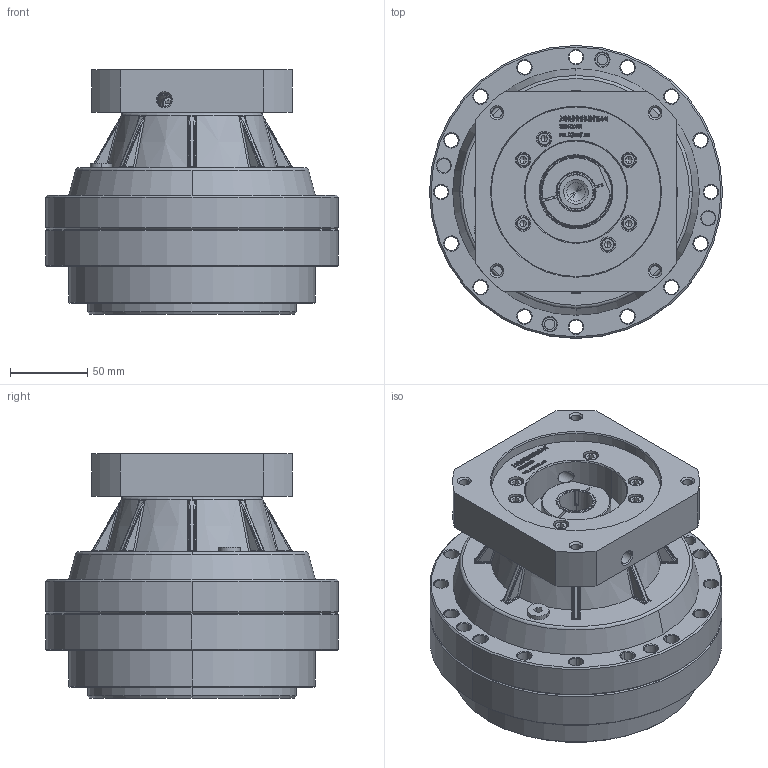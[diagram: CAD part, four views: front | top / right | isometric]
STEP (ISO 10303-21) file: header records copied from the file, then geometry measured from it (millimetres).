
FILE_DESCRIPTION (( 'STEP AP214' ), '1' );
FILE_NAME ('190BX-REA-苤厒掀-22-110145.STEP', '2022-11-12T13:38:50', ( '' ), ( '' ), 'SwSTEP 2.0', 'SolidWorks 2020', '' );
FILE_SCHEMA (( 'AUTOMOTIVE_DESIGN' ));
Length unit declared in the file: millimetre
Products named in the file (14): 錨璃517^190BX-REA-苤厒掀-22-110145; 弹性挡圈GB 893.1-86 - 72.stp; DIN 908 - M10 x 1.stp; 蹟隊 GB_T 70.1 M5 x 20.stp; 蹟隊 GB_T 70.1 M5 x 16.stp; 坶踡ん25-45.stp; 190BX-41k-22shaft.stp; 190BX-REA-苤厒掀-22-110145.stp; 萇儂假蚾楊擘110-145.stp; DIN 3760 - AS - 35 x 47 x 7 - NBR.stp; 190BX-楊擘A-57.stp; 190BX-REA-苤厒掀-22-110145; 190BX-OP-41k.stp; 粣創 6207-2RS GB_T 276-94.stp
Assembly tree (18 placements, depth 3):
  190BX-REA-苤厒掀-22-110145
    190BX-REA-苤厒掀-22-110145.stp
      190BX-OP-41k.stp
      190BX-楊擘A-57.stp
      粣創 6207-2RS GB_T 276-94.stp
      弹性挡圈GB 893.1-86 - 72.stp
      DIN 3760 - AS - 35 x 47 x 7 - NBR.stp
      萇儂假蚾楊擘110-145.stp
      蹟隊 GB_T 70.1 M5 x 16.stp
      蹟隊 GB_T 70.1 M5 x 20.stp  x6
      DIN 908 - M10 x 1.stp
      190BX-41k-22shaft.stp
      坶踡ん25-45.stp
    錨璃517^190BX-REA-苤厒掀-22-110145
Bounding box: 190 x 190 x 158.5 mm (x, y, z)
Volume: 2429639.9 mm3; surface area: 352472.9 mm2
Topology: 92 solids, 96 shells, 2870 faces, 7489 edges, 4820 vertices
Faces by surface type: plane 1330, bspline 636, cylinder 444, cone 356, torus 86, sphere 18
Entity records: 130341 total; most frequent: CARTESIAN_POINT 47516, ORIENTED_EDGE 14236, DIRECTION 10880, EDGE_CURVE 7118, VERTEX_POINT 4628, VECTOR 4386, LINE 4386, AXIS2_PLACEMENT_3D 3247
